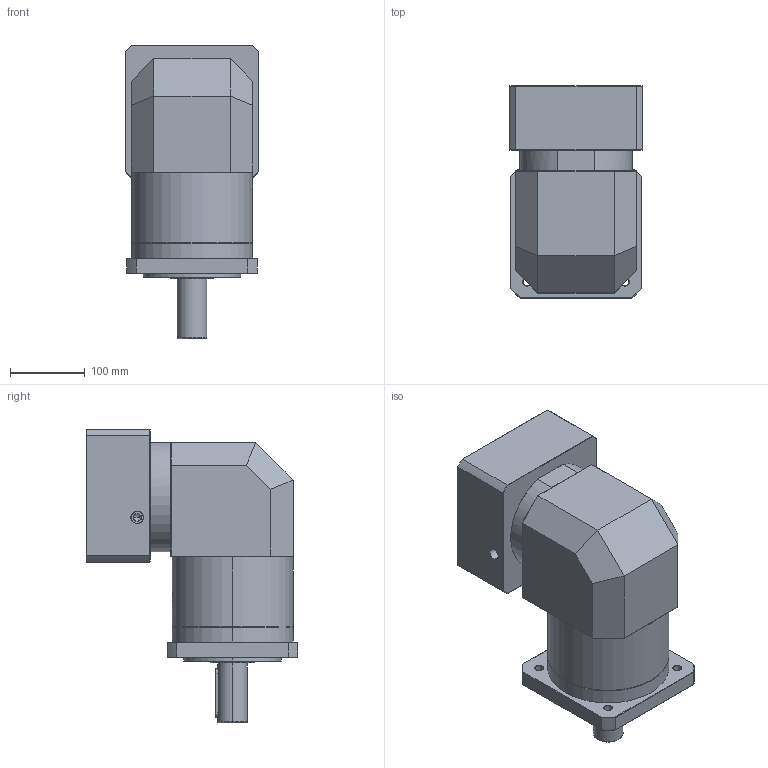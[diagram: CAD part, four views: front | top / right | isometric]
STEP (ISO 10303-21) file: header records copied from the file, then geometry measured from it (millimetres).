
FILE_DESCRIPTION (( 'STEP AP214' ), '1' );
FILE_NAME ('ZFR160A-D40-L2-P2-42-114.3-200-M12.step', '2023-09-03T08:58:56', ( '' ), ( '' ), 'SwSTEP 2.0', 'SolidWorks 2016', '' );
FILE_SCHEMA (( 'AUTOMOTIVE_DESIGN' ));
Length unit declared in the file: millimetre
Products named in the file (1): ZFR160A-D40-L2-P2-42-114.3-200-M12
Bounding box: 178 x 283.5 x 392.7 mm (x, y, z)
Volume: 8735338.7 mm3; surface area: 522666.5 mm2
Topology: 6 solids, 6 shells, 2191 faces, 5786 edges, 3703 vertices
Faces by surface type: plane 1046, bspline 410, cylinder 404, cone 309, torus 22
Entity records: 124726 total; most frequent: CARTESIAN_POINT 51713, ORIENTED_EDGE 11512, DIRECTION 8343, EDGE_CURVE 5756, VERTEX_POINT 3703, VECTOR 3083, LINE 3083, AXIS2_PLACEMENT_3D 2630
